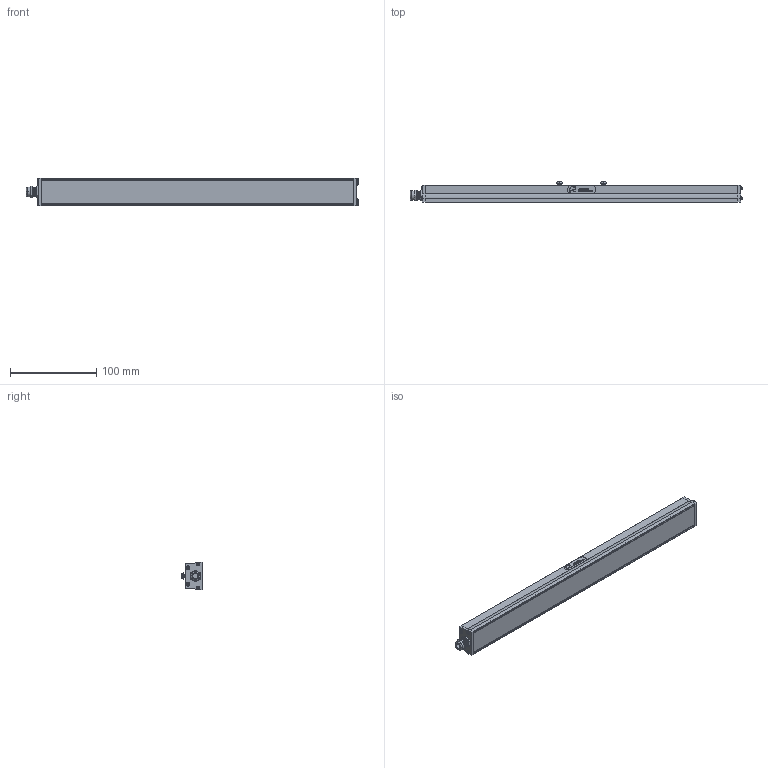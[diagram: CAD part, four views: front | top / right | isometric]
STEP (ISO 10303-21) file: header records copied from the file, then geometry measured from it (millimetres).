
FILE_DESCRIPTION (( 'STEP AP214' ), '1' );
FILE_NAME ('AL116 _NONSEALED__ALL11614.stp', '2021-04-29T14:22:14', ( '' ), ( '' ), 'SwSTEP 2.0', 'SolidWorks 2018', '' );
FILE_SCHEMA (( 'AUTOMOTIVE_DESIGN' ));
Length unit declared in the file: inch
Products named in the file (15): BH-M4x6; 10mm Label (116 126)_Default<As Machined>; 10mm Ai; 090888-XX_090888-14; AL116 _NONSEALED__ALL11614; 10mm Swish_Default<As Machined>; 093474_093474; 091052 (116 126); 090878-XX_090878-14; 090870; 090869; 091064_Model_Dome Fittings_Thread Type and Size(Dome)_M10 x 1.5_Hazardous Location-Explosive Proof(ATEX and EExe Versions)_No_; 093469_093469; 10mm Advanced illumination; HN-M4_90592A016
Assembly tree (24 placements, depth 3):
  AL116 _NONSEALED__ALL11614
    090888-XX_090888-14
    093469_093469  x2
    090869
    090870
    090878-XX_090878-14
    093474_093474  x8
    091064_Model_Dome Fittings_Thread Type and Size(Dome)_M10 x 1.5_Hazardous Location-Explosive Proof(ATEX and EExe Versions)_No_
    091052 (116 126)
      10mm Label (116 126)_Default<As Machined>
      10mm Ai
      10mm Swish_Default<As Machined>
      10mm Advanced illumination
    HN-M4_90592A016  x2
    BH-M4x6  x2
Bounding box: 384.73 x 24.1 x 32.21 mm (x, y, z)
Volume: 73240.7 mm3; surface area: 106047.3 mm2
Topology: 48 solids, 48 shells, 1911 faces, 4942 edges, 3078 vertices
Faces by surface type: cylinder 954, plane 413, cone 362, bspline 122, torus 60
Entity records: 31843 total; most frequent: CARTESIAN_POINT 11151, ORIENTED_EDGE 4280, DIRECTION 3753, EDGE_CURVE 2140, VERTEX_POINT 1366, AXIS2_PLACEMENT_3D 1335, LINE 1083, VECTOR 1083
